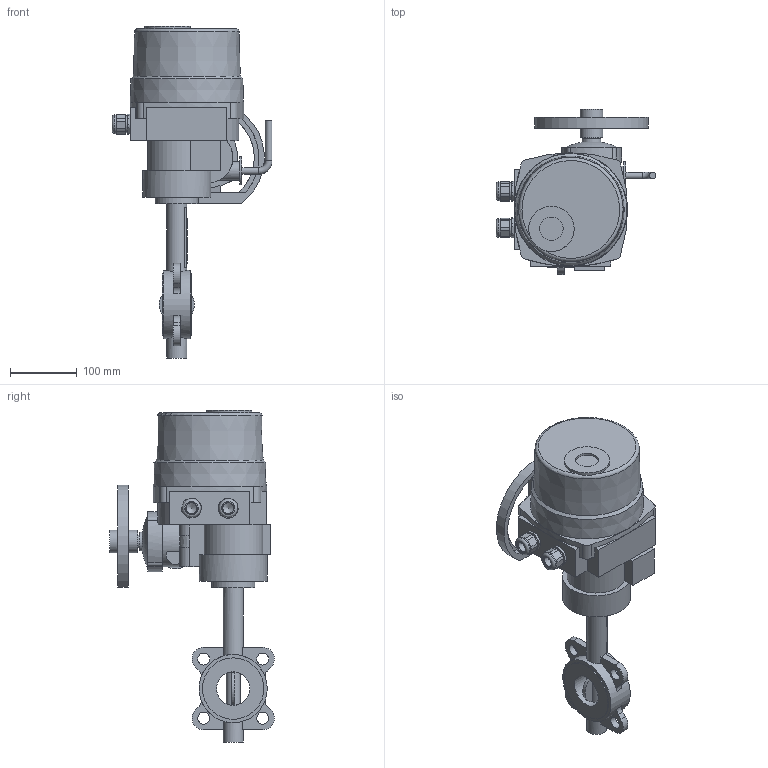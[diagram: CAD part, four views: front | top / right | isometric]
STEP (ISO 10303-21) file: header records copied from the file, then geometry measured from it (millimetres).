
FILE_DESCRIPTION(('STEP AP203'), '1');
FILE_NAME('青蜮铕 017WDN50+菹 QT5-1', '', ('UNSPECIFIED'), ('UNSPECIFIED'), 'ASCON STEP Converter 1.6', 'ASCON Math Kernel', '');
FILE_SCHEMA(('CONFIG_CONTROL_DESIGN'));
Length unit declared in the file: millimetre
Bounding box: 239.5 x 246.67 x 497 mm (x, y, z)
Volume: 5072498.8 mm3; surface area: 336906.9 mm2
Topology: 2 solids, 3 shells, 790 faces, 2240 edges, 1438 vertices
Faces by surface type: cylinder 505, plane 270, cone 9, torus 5, bspline 1
Full cylindrical faces by diameter (mm): 4.917 x4, 8 x4, 10 x2, 12.6 x1, 16 x2, 17 x2, 18 x4, 20 x1, 21 x1, 22.835 x2, 25 x2, 28 x3, 28.026 x1, 30 x2, 34 x2, 35 x2, 40 x1, 42 x1, 50 x1, 65 x1, 68 x1, 92 x2, 102 x2
Entity records: 33053 total; most frequent: CARTESIAN_POINT 5423, DIRECTION 4828, ORIENTED_EDGE 4291, EDGE_CURVE 2177, AXIS2_PLACEMENT_3D 1890, VERTEX_POINT 1432, CIRCLE 1100, LINE 1048
